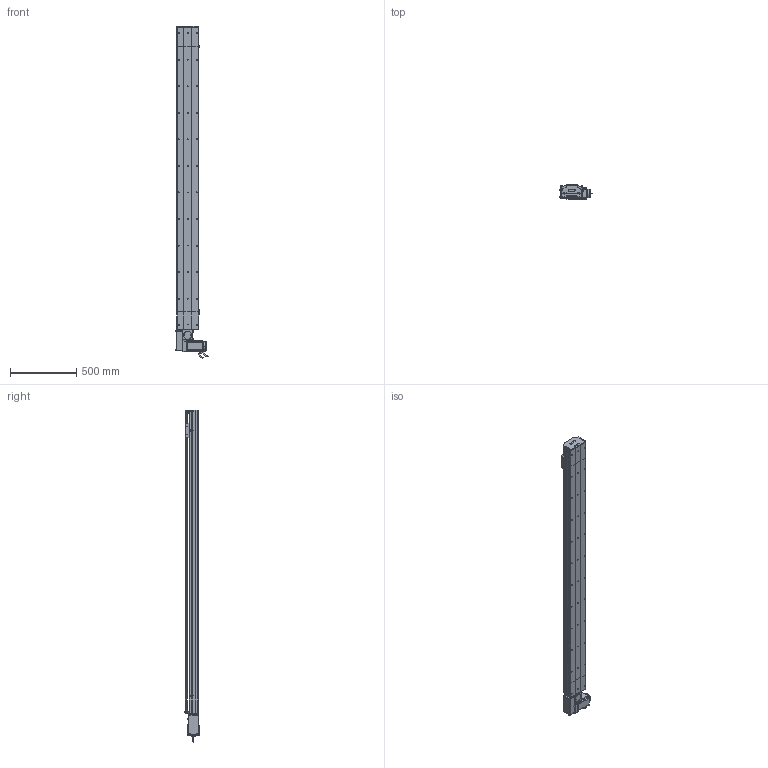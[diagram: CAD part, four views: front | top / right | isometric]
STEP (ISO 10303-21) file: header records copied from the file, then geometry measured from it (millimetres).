
FILE_DESCRIPTION (( 'STEP AP214' ), '1' );
FILE_NAME ('D17 TBN RH S2000.STEP', '2010-06-30T11:21:03', ( 'Christophe Gaillard' ), ( 'SGA' ), 'SwSTEP 2.0', 'SolidWorks 2010', '' );
FILE_SCHEMA (( 'AUTOMOTIVE_DESIGN' ));
Length unit declared in the file: millimetre
Products named in the file (40): vis M5 L16_Default; vis M5 L12_Default; vis M5 L8 90°_Default; couvercle D17B_Default; Couroie tail D17B_Default; poulie tail_Default; plaque de  bout tail D17B_Default; Rail D17B; tete d''axe poulie D17B; corpl tail D17B_Default; Tail D17B_Default; vis M5 L70_Default; codeur 90BLDC125-640; chariot D17 TBN; corpl head D17 _Default; D17 TBN RH S2000; Vis M5 L16-2_Default; Conecteur_Default; Chariot D17 TBN; guide D17; cache D17_Default; vis M5 L5_Default; poulie head_Default; couroie head D17_Default; plaque de  bout head D17B RH_Default; Moteur motionking 90BLDC125A-640; avant 90BLDC125A-640; vis M5 L25_Default; Arbre+rail head D17B; couvercle D17B head_Default; corps 90BLDC125A-640; Plaque racord D17_Default; couvercle D17B course L2000_Default; Couroie+ rail D17 Course 2000 ; course 2000 D17B_Default; corp D17B 2000_Default; Conecteur2_Default; cache arbre D17_Default; Renvoi RH_Default; Head RH D17B_Default
Assembly tree (66 placements, depth 4):
  D17 TBN RH S2000
    Tail D17B_Default
      Rail D17B
      vis M5 L25_Default  x2
      corpl tail D17B_Default
      vis M5 L8 90°_Default  x2
      tete d''axe poulie D17B
      poulie tail_Default
      vis M5 L12_Default  x4
      Couroie tail D17B_Default
      plaque de  bout tail D17B_Default
      couvercle D17B_Default
    chariot D17 TBN
      Chariot D17 TBN
      guide D17  x2
    Head RH D17B_Default
      poulie head_Default
      Moteur motionking 90BLDC125A-640
        corps 90BLDC125A-640
        Conecteur2_Default
        codeur 90BLDC125-640
        Conecteur_Default
        avant 90BLDC125A-640
      vis M5 L70_Default  x4
      corpl head D17 _Default
      vis M5 L5_Default  x4
      Vis M5 L16-2_Default  x4
      vis M5 L16_Default  x2
      vis M5 L25_Default  x2
      plaque de  bout head D17B RH_Default
      couvercle D17B head_Default
      vis M5 L12_Default  x8
      cache D17_Default  x2
      Plaque racord D17_Default
      cache arbre D17_Default
      couroie head D17_Default
      Renvoi RH_Default
      Arbre+rail head D17B
    course 2000 D17B_Default
      corp D17B 2000_Default
      couvercle D17B course L2000_Default
      Couroie+ rail D17 Course 2000 
Bounding box: 245.2 x 105.65 x 2500.95 mm (x, y, z)
Volume: 14145338.9 mm3; surface area: 4078513.2 mm2
Topology: 89 solids, 89 shells, 2591 faces, 6605 edges, 4258 vertices
Faces by surface type: plane 1533, cylinder 761, bspline 136, cone 80, torus 77, sphere 4
Entity records: 83891 total; most frequent: CARTESIAN_POINT 25019, ORIENTED_EDGE 10382, DIRECTION 9812, EDGE_CURVE 5191, LINE 3442, VECTOR 3442, VERTEX_POINT 3402, AXIS2_PLACEMENT_3D 3185
